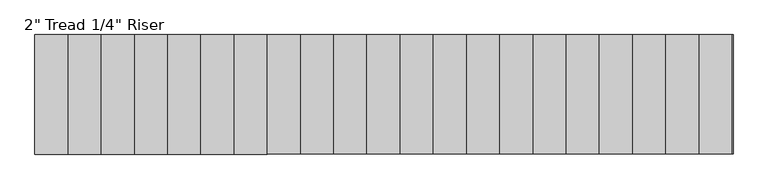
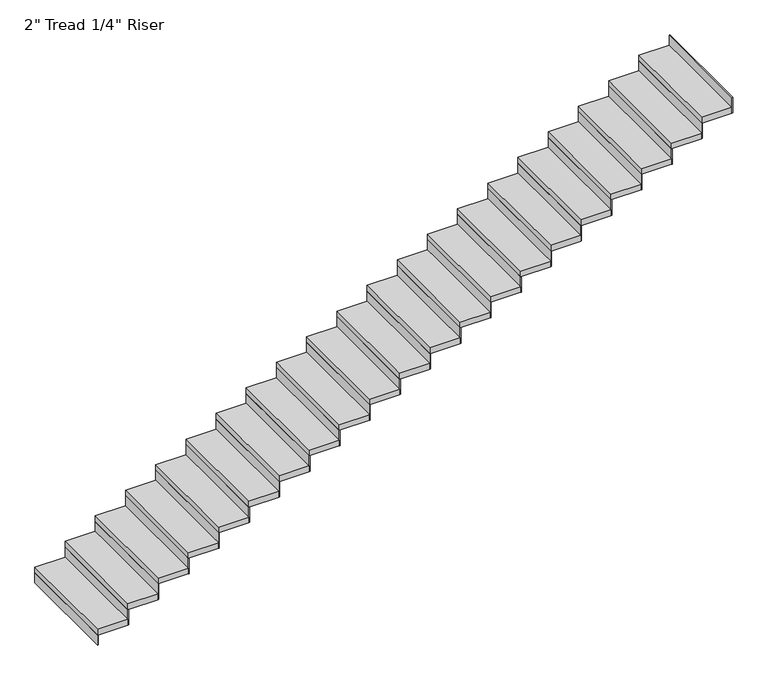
"""IFC4 building model written with IfcOpenShell, lengths in millimetres: stair flight geometry."""

from ifc_helpers import new_model, si_unit, frame, origin, origin_with_axes, place, context, project, spatial, polyline, outline, extrude, source, transform, mapped, element, save


def stair_flight_1cc1b1d4(model_context):
    return source(origin(), model_context, "Body", "SweptSolid", [
        extrude(outline(polyline([(35788.2667764, 52176.6739583), (35781.9167764, 52176.6739583), (35781.9167764, 53091.0739583), (35788.2667764, 53091.0739583), (35788.2667764, 52176.6739583)])), origin_with_axes(), (0.0, 0.0, 1.0), 87.7454545),
        extrude(outline(polyline([(36035.9167764, 53091.0739583), (36035.9167764, 52176.6739583), (35781.9167764, 52176.6739583), (35781.9167764, 53091.0739583), (36035.9167764, 53091.0739583)])), frame((0.0, 0.0, 87.7454545), z_axis=(0.0, 0.0, 1.0), x_axis=(1.0, 0.0, 0.0)), (0.0, 0.0, 1.0), 50.8),
        extrude(outline(polyline([(36042.2667764, 52176.6739583), (36035.9167764, 52176.6739583), (36035.9167764, 53091.0739583), (36042.2667764, 53091.0739583), (36042.2667764, 52176.6739583)])), frame((0.0, 0.0, 87.7454545), z_axis=(0.0, 0.0, 1.0), x_axis=(1.0, 0.0, 0.0)), (0.0, 0.0, 1.0), 138.5454545),
        extrude(outline(polyline([(36289.9167764, 53091.0739583), (36289.9167764, 52176.6739583), (36035.9167764, 52176.6739583), (36035.9167764, 53091.0739583), (36289.9167764, 53091.0739583)])), frame((0.0, 0.0, 226.2909091), z_axis=(0.0, 0.0, 1.0), x_axis=(1.0, 0.0, 0.0)), (0.0, 0.0, 1.0), 50.8),
        extrude(outline(polyline([(36296.2667764, 52176.6739583), (36289.9167764, 52176.6739583), (36289.9167764, 53091.0739583), (36296.2667764, 53091.0739583), (36296.2667764, 52176.6739583)])), frame((0.0, 0.0, 226.2909091), z_axis=(0.0, 0.0, 1.0), x_axis=(1.0, 0.0, 0.0)), (0.0, 0.0, 1.0), 138.5454545),
        extrude(outline(polyline([(36543.9167764, 53091.0739583), (36543.9167764, 52176.6739583), (36289.9167764, 52176.6739583), (36289.9167764, 53091.0739583), (36543.9167764, 53091.0739583)])), frame((0.0, 0.0, 364.8363636), z_axis=(0.0, 0.0, 1.0), x_axis=(1.0, 0.0, 0.0)), (0.0, 0.0, 1.0), 50.8),
        extrude(outline(polyline([(36550.2667764, 52176.6739583), (36543.9167764, 52176.6739583), (36543.9167764, 53091.0739583), (36550.2667764, 53091.0739583), (36550.2667764, 52176.6739583)])), frame((0.0, 0.0, 364.8363636), z_axis=(0.0, 0.0, 1.0), x_axis=(1.0, 0.0, 0.0)), (0.0, 0.0, 1.0), 138.5454545),
        extrude(outline(polyline([(36797.9167764, 53091.0739583), (36797.9167764, 52176.6739583), (36543.9167764, 52176.6739583), (36543.9167764, 53091.0739583), (36797.9167764, 53091.0739583)])), frame((0.0, 0.0, 503.3818182), z_axis=(0.0, 0.0, 1.0), x_axis=(1.0, 0.0, 0.0)), (0.0, 0.0, 1.0), 50.8),
        extrude(outline(polyline([(36804.2667764, 52176.6739583), (36797.9167764, 52176.6739583), (36797.9167764, 53091.0739583), (36804.2667764, 53091.0739583), (36804.2667764, 52176.6739583)])), frame((0.0, 0.0, 503.3818182), z_axis=(0.0, 0.0, 1.0), x_axis=(1.0, 0.0, 0.0)), (0.0, 0.0, 1.0), 138.5454545),
        extrude(outline(polyline([(37051.9167764, 53091.0739583), (37051.9167764, 52176.6739583), (36797.9167764, 52176.6739583), (36797.9167764, 53091.0739583), (37051.9167764, 53091.0739583)])), frame((0.0, 0.0, 641.9272727), z_axis=(0.0, 0.0, 1.0), x_axis=(1.0, 0.0, 0.0)), (0.0, 0.0, 1.0), 50.8),
        extrude(outline(polyline([(37058.2667764, 52176.6739583), (37051.9167764, 52176.6739583), (37051.9167764, 53091.0739583), (37058.2667764, 53091.0739583), (37058.2667764, 52176.6739583)])), frame((0.0, 0.0, 641.9272727), z_axis=(0.0, 0.0, 1.0), x_axis=(1.0, 0.0, 0.0)), (0.0, 0.0, 1.0), 138.5454545),
        extrude(outline(polyline([(37305.9167764, 53091.0739583), (37305.9167764, 52176.6739583), (37051.9167764, 52176.6739583), (37051.9167764, 53091.0739583), (37305.9167764, 53091.0739583)])), frame((0.0, 0.0, 780.4727273), z_axis=(0.0, 0.0, 1.0), x_axis=(1.0, 0.0, 0.0)), (0.0, 0.0, 1.0), 50.8),
        extrude(outline(polyline([(37312.2667764, 52176.6739583), (37305.9167764, 52176.6739583), (37305.9167764, 53091.0739583), (37312.2667764, 53091.0739583), (37312.2667764, 52176.6739583)])), frame((0.0, 0.0, 780.4727273), z_axis=(0.0, 0.0, 1.0), x_axis=(1.0, 0.0, 0.0)), (0.0, 0.0, 1.0), 138.5454545),
        extrude(outline(polyline([(37559.9167764, 53091.0739583), (37559.9167764, 52176.6739583), (37305.9167764, 52176.6739583), (37305.9167764, 53091.0739583), (37559.9167764, 53091.0739583)])), frame((0.0, 0.0, 919.0181818), z_axis=(0.0, 0.0, 1.0), x_axis=(1.0, 0.0, 0.0)), (0.0, 0.0, 1.0), 50.8),
        extrude(outline(polyline([(37566.2667764, 52176.6739583), (37559.9167764, 52176.6739583), (37559.9167764, 53091.0739583), (37566.2667764, 53091.0739583), (37566.2667764, 52176.6739583)])), frame((0.0, 0.0, 919.0181818), z_axis=(0.0, 0.0, 1.0), x_axis=(1.0, 0.0, 0.0)), (0.0, 0.0, 1.0), 138.5454545),
        extrude(outline(polyline([(37813.9167764, 53091.0739583), (37813.9167764, 52176.6739583), (37559.9167764, 52176.6739583), (37559.9167764, 53091.0739583), (37813.9167764, 53091.0739583)])), frame((0.0, 0.0, 1057.5636364), z_axis=(0.0, 0.0, 1.0), x_axis=(1.0, 0.0, 0.0)), (0.0, 0.0, 1.0), 50.8),
        extrude(outline(polyline([(37820.2667764, 52176.6739583), (37813.9167764, 52176.6739583), (37813.9167764, 53091.0739583), (37820.2667764, 53091.0739583), (37820.2667764, 52176.6739583)])), frame((0.0, 0.0, 1057.5636364), z_axis=(0.0, 0.0, 1.0), x_axis=(1.0, 0.0, 0.0)), (0.0, 0.0, 1.0), 138.5454545),
        extrude(outline(polyline([(38067.9167764, 53091.0739583), (38067.9167764, 52176.6739583), (37813.9167764, 52176.6739583), (37813.9167764, 53091.0739583), (38067.9167764, 53091.0739583)])), frame((0.0, 0.0, 1196.1090909), z_axis=(0.0, 0.0, 1.0), x_axis=(1.0, 0.0, 0.0)), (0.0, 0.0, 1.0), 50.8),
        extrude(outline(polyline([(38074.2667764, 52176.6739583), (38067.9167764, 52176.6739583), (38067.9167764, 53091.0739583), (38074.2667764, 53091.0739583), (38074.2667764, 52176.6739583)])), frame((0.0, 0.0, 1196.1090909), z_axis=(0.0, 0.0, 1.0), x_axis=(1.0, 0.0, 0.0)), (0.0, 0.0, 1.0), 138.5454545),
        extrude(outline(polyline([(38321.9167764, 53091.0739583), (38321.9167764, 52176.6739583), (38067.9167764, 52176.6739583), (38067.9167764, 53091.0739583), (38321.9167764, 53091.0739583)])), frame((0.0, 0.0, 1334.6545455), z_axis=(0.0, 0.0, 1.0), x_axis=(1.0, 0.0, 0.0)), (0.0, 0.0, 1.0), 50.8),
        extrude(outline(polyline([(38328.2667764, 52176.6739583), (38321.9167764, 52176.6739583), (38321.9167764, 53091.0739583), (38328.2667764, 53091.0739583), (38328.2667764, 52176.6739583)])), frame((0.0, 0.0, 1334.6545455), z_axis=(0.0, 0.0, 1.0), x_axis=(1.0, 0.0, 0.0)), (0.0, 0.0, 1.0), 138.5454545),
        extrude(outline(polyline([(38575.9167764, 53091.0739583), (38575.9167764, 52176.6739583), (38321.9167764, 52176.6739583), (38321.9167764, 53091.0739583), (38575.9167764, 53091.0739583)])), frame((0.0, 0.0, 1473.2), z_axis=(0.0, 0.0, 1.0), x_axis=(1.0, 0.0, 0.0)), (0.0, 0.0, 1.0), 50.8),
        extrude(outline(polyline([(38582.2667764, 52176.6739583), (38575.9167764, 52176.6739583), (38575.9167764, 53091.0739583), (38582.2667764, 53091.0739583), (38582.2667764, 52176.6739583)])), frame((0.0, 0.0, 1473.2), z_axis=(0.0, 0.0, 1.0), x_axis=(1.0, 0.0, 0.0)), (0.0, 0.0, 1.0), 138.5454545),
        extrude(outline(polyline([(38829.9167764, 53091.0739583), (38829.9167764, 52176.6739583), (38575.9167764, 52176.6739583), (38575.9167764, 53091.0739583), (38829.9167764, 53091.0739583)])), frame((0.0, 0.0, 1611.7454545), z_axis=(0.0, 0.0, 1.0), x_axis=(1.0, 0.0, 0.0)), (0.0, 0.0, 1.0), 50.8),
        extrude(outline(polyline([(38836.2667764, 52176.6739583), (38829.9167764, 52176.6739583), (38829.9167764, 53091.0739583), (38836.2667764, 53091.0739583), (38836.2667764, 52176.6739583)])), frame((0.0, 0.0, 1611.7454545), z_axis=(0.0, 0.0, 1.0), x_axis=(1.0, 0.0, 0.0)), (0.0, 0.0, 1.0), 138.5454545),
        extrude(outline(polyline([(39083.9167764, 53091.0739583), (39083.9167764, 52176.6739583), (38829.9167764, 52176.6739583), (38829.9167764, 53091.0739583), (39083.9167764, 53091.0739583)])), frame((0.0, 0.0, 1750.2909091), z_axis=(0.0, 0.0, 1.0), x_axis=(1.0, 0.0, 0.0)), (0.0, 0.0, 1.0), 50.8),
        extrude(outline(polyline([(39090.2667764, 52176.6739583), (39083.9167764, 52176.6739583), (39083.9167764, 53091.0739583), (39090.2667764, 53091.0739583), (39090.2667764, 52176.6739583)])), frame((0.0, 0.0, 1750.2909091), z_axis=(0.0, 0.0, 1.0), x_axis=(1.0, 0.0, 0.0)), (0.0, 0.0, 1.0), 138.5454545),
        extrude(outline(polyline([(39337.9167764, 53091.0739583), (39337.9167764, 52176.6739583), (39083.9167764, 52176.6739583), (39083.9167764, 53091.0739583), (39337.9167764, 53091.0739583)])), frame((0.0, 0.0, 1888.8363636), z_axis=(0.0, 0.0, 1.0), x_axis=(1.0, 0.0, 0.0)), (0.0, 0.0, 1.0), 50.8),
        extrude(outline(polyline([(39344.2667764, 52176.6739583), (39337.9167764, 52176.6739583), (39337.9167764, 53091.0739583), (39344.2667764, 53091.0739583), (39344.2667764, 52176.6739583)])), frame((0.0, 0.0, 1888.8363636), z_axis=(0.0, 0.0, 1.0), x_axis=(1.0, 0.0, 0.0)), (0.0, 0.0, 1.0), 138.5454545),
        extrude(outline(polyline([(39591.9167764, 53091.0739583), (39591.9167764, 52176.6739583), (39337.9167764, 52176.6739583), (39337.9167764, 53091.0739583), (39591.9167764, 53091.0739583)])), frame((0.0, 0.0, 2027.3818182), z_axis=(0.0, 0.0, 1.0), x_axis=(1.0, 0.0, 0.0)), (0.0, 0.0, 1.0), 50.8),
        extrude(outline(polyline([(39598.2667764, 52176.6739583), (39591.9167764, 52176.6739583), (39591.9167764, 53091.0739583), (39598.2667764, 53091.0739583), (39598.2667764, 52176.6739583)])), frame((0.0, 0.0, 2027.3818182), z_axis=(0.0, 0.0, 1.0), x_axis=(1.0, 0.0, 0.0)), (0.0, 0.0, 1.0), 138.5454545),
        extrude(outline(polyline([(39845.9167764, 53091.0739583), (39845.9167764, 52176.6739583), (39591.9167764, 52176.6739583), (39591.9167764, 53091.0739583), (39845.9167764, 53091.0739583)])), frame((0.0, 0.0, 2165.9272727), z_axis=(0.0, 0.0, 1.0), x_axis=(1.0, 0.0, 0.0)), (0.0, 0.0, 1.0), 50.8),
        extrude(outline(polyline([(39852.2667764, 52176.6739583), (39845.9167764, 52176.6739583), (39845.9167764, 53091.0739583), (39852.2667764, 53091.0739583), (39852.2667764, 52176.6739583)])), frame((0.0, 0.0, 2165.9272727), z_axis=(0.0, 0.0, 1.0), x_axis=(1.0, 0.0, 0.0)), (0.0, 0.0, 1.0), 138.5454545),
        extrude(outline(polyline([(40099.9167764, 53091.0739583), (40099.9167764, 52176.6739583), (39845.9167764, 52176.6739583), (39845.9167764, 53091.0739583), (40099.9167764, 53091.0739583)])), frame((0.0, 0.0, 2304.4727273), z_axis=(0.0, 0.0, 1.0), x_axis=(1.0, 0.0, 0.0)), (0.0, 0.0, 1.0), 50.8),
        extrude(outline(polyline([(40106.2667764, 52176.6739583), (40099.9167764, 52176.6739583), (40099.9167764, 53091.0739583), (40106.2667764, 53091.0739583), (40106.2667764, 52176.6739583)])), frame((0.0, 0.0, 2304.4727273), z_axis=(0.0, 0.0, 1.0), x_axis=(1.0, 0.0, 0.0)), (0.0, 0.0, 1.0), 138.5454545),
        extrude(outline(polyline([(40353.9167764, 53091.0739583), (40353.9167764, 52176.6739583), (40099.9167764, 52176.6739583), (40099.9167764, 53091.0739583), (40353.9167764, 53091.0739583)])), frame((0.0, 0.0, 2443.0181818), z_axis=(0.0, 0.0, 1.0), x_axis=(1.0, 0.0, 0.0)), (0.0, 0.0, 1.0), 50.8),
        extrude(outline(polyline([(40360.2667764, 52176.6739583), (40353.9167764, 52176.6739583), (40353.9167764, 53091.0739583), (40360.2667764, 53091.0739583), (40360.2667764, 52176.6739583)])), frame((0.0, 0.0, 2443.0181818), z_axis=(0.0, 0.0, 1.0), x_axis=(1.0, 0.0, 0.0)), (0.0, 0.0, 1.0), 138.5454545),
        extrude(outline(polyline([(40607.9167764, 53091.0739583), (40607.9167764, 52176.6739583), (40353.9167764, 52176.6739583), (40353.9167764, 53091.0739583), (40607.9167764, 53091.0739583)])), frame((0.0, 0.0, 2581.5636364), z_axis=(0.0, 0.0, 1.0), x_axis=(1.0, 0.0, 0.0)), (0.0, 0.0, 1.0), 50.8),
        extrude(outline(polyline([(40614.2667764, 52176.6739583), (40607.9167764, 52176.6739583), (40607.9167764, 53091.0739583), (40614.2667764, 53091.0739583), (40614.2667764, 52176.6739583)])), frame((0.0, 0.0, 2581.5636364), z_axis=(0.0, 0.0, 1.0), x_axis=(1.0, 0.0, 0.0)), (0.0, 0.0, 1.0), 138.5454545),
        extrude(outline(polyline([(40861.9167764, 53091.0739583), (40861.9167764, 52176.6739583), (40607.9167764, 52176.6739583), (40607.9167764, 53091.0739583), (40861.9167764, 53091.0739583)])), frame((0.0, 0.0, 2720.1090909), z_axis=(0.0, 0.0, 1.0), x_axis=(1.0, 0.0, 0.0)), (0.0, 0.0, 1.0), 50.8),
        extrude(outline(polyline([(40868.2667764, 52176.6739583), (40861.9167764, 52176.6739583), (40861.9167764, 53091.0739583), (40868.2667764, 53091.0739583), (40868.2667764, 52176.6739583)])), frame((0.0, 0.0, 2720.1090909), z_axis=(0.0, 0.0, 1.0), x_axis=(1.0, 0.0, 0.0)), (0.0, 0.0, 1.0), 138.5454545),
        extrude(outline(polyline([(41122.2667764, 52176.6739583), (41115.9167764, 52176.6739583), (41115.9167764, 53091.0739583), (41122.2667764, 53091.0739583), (41122.2667764, 52176.6739583)])), frame((0.0, 0.0, 2858.6545455), z_axis=(0.0, 0.0, 1.0), x_axis=(1.0, 0.0, 0.0)), (0.0, 0.0, 1.0), 138.5454545),
        extrude(outline(polyline([(41115.9167764, 53091.0739583), (41115.9167764, 52176.6739583), (40861.9167764, 52176.6739583), (40861.9167764, 53091.0739583), (41115.9167764, 53091.0739583)])), frame((0.0, 0.0, 2858.6545455), z_axis=(0.0, 0.0, 1.0), x_axis=(1.0, 0.0, 0.0)), (0.0, 0.0, 1.0), 50.8),
    ])


if __name__ == "__main__":
    model = new_model("IFC4")
    model_context = context("Model", 3, world=origin())
    ifc_project = project(units=[si_unit("LENGTHUNIT", "METRE", prefix="MILLI")], contexts=[model_context])
    site = spatial("IfcSite", under=ifc_project)
    building = spatial("IfcBuilding", under=site)
    placement = place(None, origin())
    stair_flight_shape = stair_flight_1cc1b1d4(model_context)
    element("IfcStairFlight", 1, ObjectType="2\" Tread 1/4\" Riser", at=placement, inside=building, context=model_context, shape_type="MappedRepresentation", body=[
        mapped(stair_flight_shape, transform((0.0, 0.0, 0.0), x_axis=(1.0, 0.0, 0.0), y_axis=(0.0, 1.0, 0.0), z_axis=(0.0, 0.0, 1.0))),
    ])
    save(model, "model.ifc")
